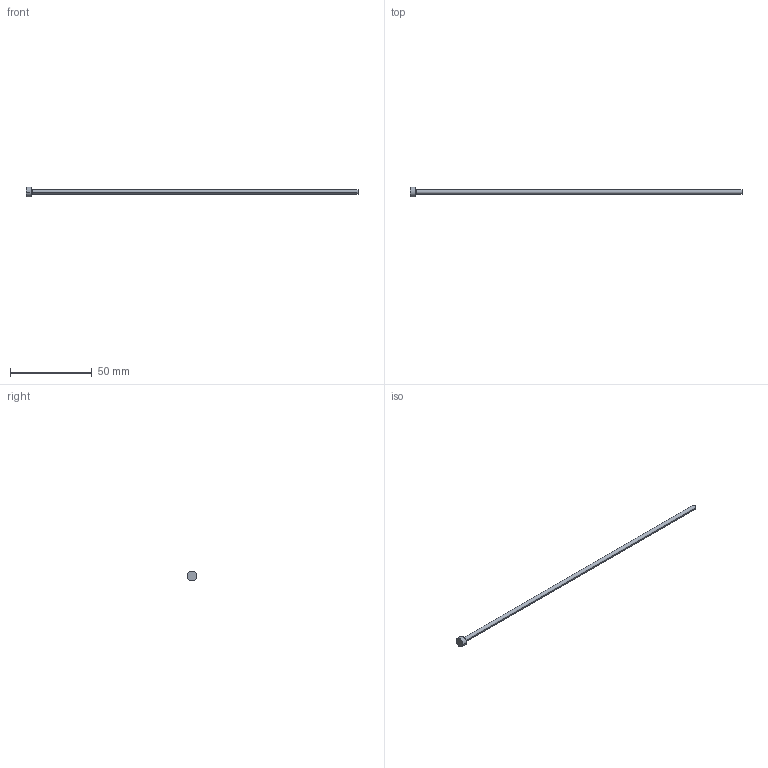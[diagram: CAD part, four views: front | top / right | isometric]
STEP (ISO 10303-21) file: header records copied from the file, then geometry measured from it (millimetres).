
FILE_DESCRIPTION (( 'STEP AP214' ), '1' );
FILE_NAME ('P8-8.STEP', '2020-03-11T17:15:48', ( '' ), ( '' ), 'SwSTEP 2.0', 'SolidWorks 2018', '' );
FILE_SCHEMA (( 'AUTOMOTIVE_DESIGN' ));
Length unit declared in the file: inch
Products named in the file (1): P8-8
Bounding box: 203.2 x 5.95 x 5.95 mm (x, y, z)
Volume: 1295.2 mm3; surface area: 1851.2 mm2
Topology: 1 solids, 1 shells, 13 faces, 24 edges, 14 vertices
Faces by surface type: cone 4, cylinder 4, plane 3, torus 2
Entity records: 366 total; most frequent: DIRECTION 68, CARTESIAN_POINT 52, ORIENTED_EDGE 48, AXIS2_PLACEMENT_3D 30, EDGE_CURVE 24, CIRCLE 16, EDGE_LOOP 14, VERTEX_POINT 14
